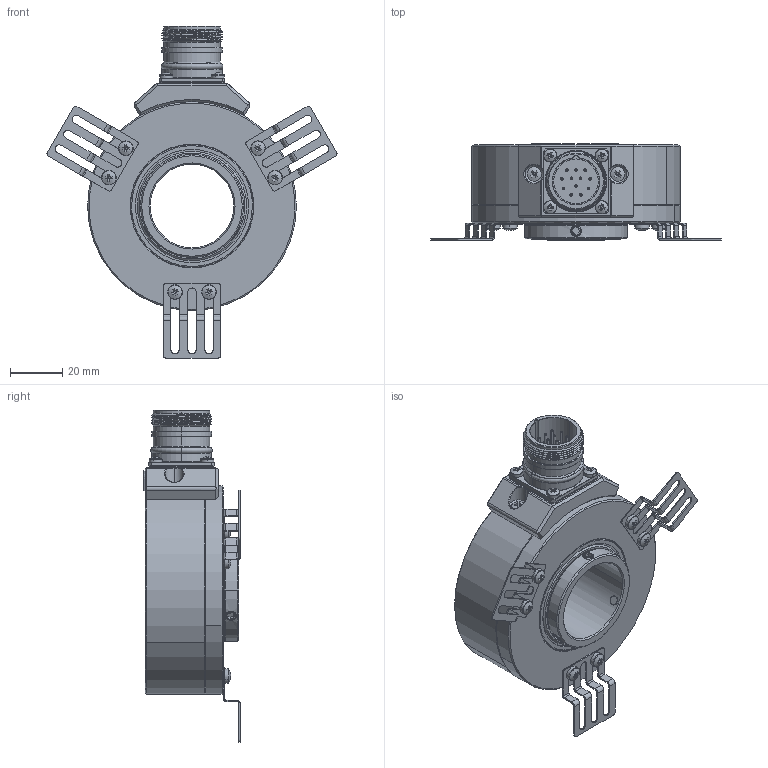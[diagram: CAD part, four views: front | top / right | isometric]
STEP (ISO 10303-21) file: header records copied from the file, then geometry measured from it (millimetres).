
FILE_DESCRIPTION (( 'STEP AP214' ), '1' );
FILE_NAME ('PKB68x50.STEP', '2025-07-01T12:03:24', ( '' ), ( '' ), 'SwSTEP 2.0', 'SolidWorks 2019', '' );
FILE_SCHEMA (( 'AUTOMOTIVE_DESIGN' ));
Length unit declared in the file: millimetre
Products named in the file (1): PKB68x50
Bounding box: 111.16 x 37 x 127.25 mm (x, y, z)
Volume: 99255.1 mm3; surface area: 57671.9 mm2
Topology: 4 solids, 22 shells, 2012 faces, 5113 edges, 3158 vertices
Faces by surface type: plane 686, cylinder 599, cone 338, bspline 306, torus 83
Entity records: 112402 total; most frequent: CARTESIAN_POINT 44628, ORIENTED_EDGE 10130, DIRECTION 8979, EDGE_CURVE 5065, AXIS2_PLACEMENT_3D 3538, VERTEX_POINT 3158, EDGE_LOOP 2147, UNCERTAINTY_MEASURE_WITH_UNIT 2018
